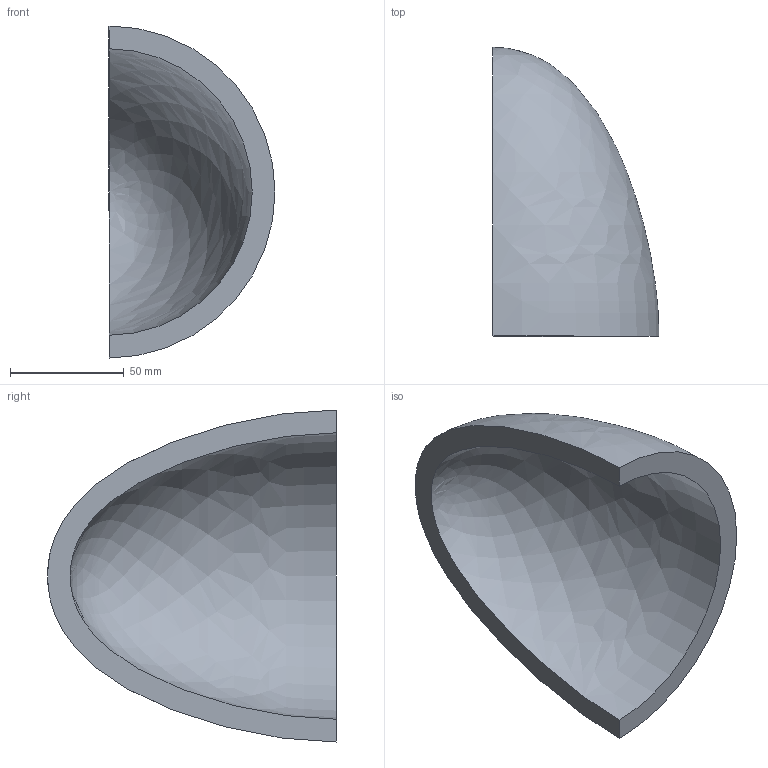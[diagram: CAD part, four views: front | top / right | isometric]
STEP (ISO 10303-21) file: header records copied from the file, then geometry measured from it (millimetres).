
FILE_DESCRIPTION(('CATIA V5 STEP Exchange'),'2;1');
FILE_NAME('C:\_Andres\UNIVERSIDAD\IQS\ASIGNATURAS\DAO\EXF\EXF-16172c\2inicio\Reyes_Carmenaty_Ej10_v27.stp','2017-03-05T22:31:14+00:00',('none'),('none'),'CATIA Version 5-6 Release 2014 SP1 HF18','CATIA V5 STEP AP203','none');
FILE_SCHEMA(('CONFIG_CONTROL_DESIGN'));
Length unit declared in the file: millimetre
Products named in the file (1): Reyes_Carmenaty_Ej10_v27
Bounding box: 73 x 127 x 146 mm (x, y, z)
Volume: 223448.9 mm3; surface area: 49967.7 mm2
Topology: 1 solids, 1 shells, 4 faces, 10 edges, 6 vertices
Faces by surface type: revolution 2, plane 2
Entity records: 248 total; most frequent: CARTESIAN_POINT 126, ORIENTED_EDGE 16, DIRECTION 10, EDGE_CURVE 8, B_SPLINE_CURVE_WITH_KNOTS 6, VERTEX_POINT 6, AXIS2_PLACEMENT_3D 5, ADVANCED_FACE 4
